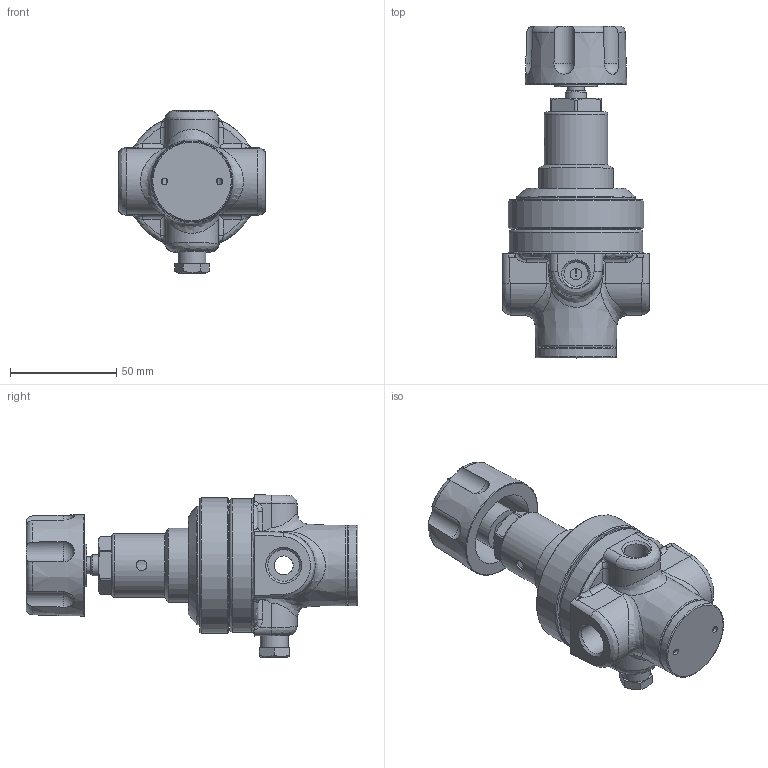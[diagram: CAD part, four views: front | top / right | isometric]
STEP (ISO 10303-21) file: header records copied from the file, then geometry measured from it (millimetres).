
FILE_DESCRIPTION(/* description */ ('R114 R138 R121'),/* implementation_level */ '2;1');
FILE_NAME(/* name */ 'I:\TEC\Lavoro\STEP 114 50 bar.stp',/* time_stamp */ '2020-09-25T11:48:21+02:00',/* author */ ('LucaLimonta'),/* organization */ (''),/* preprocessor_version */ 'ST-DEVELOPER v18.1',/* originating_system */ 'Autodesk Inventor 2021',/* authorisation */ '');
FILE_SCHEMA (('AUTOMOTIVE_DESIGN { 1 0 10303 214 3 1 1 }'));
Length unit declared in the file: millimetre
Products named in the file (20): C81038; P20669; P25029; P34021; P34014; OR 09088; OR 11062; C22021; P22015; P42008; OR 07015; P41064; P24058; P24058_1; P21006; C40001; P40001; P43010; P33012; P26009
Assembly tree (19 placements, depth 3):
  C81038
    P20669
    P25029
    P34021
    P34014
    OR 09088
    OR 11062
    C22021
      P22015
      P42008
      OR 07015
      P41064
    P24058
      P24058_1
    P21006
    C40001
      P40001
      P43010
    P33012
    P26009
Bounding box: 69 x 156.51 x 76.6 mm (x, y, z)
Volume: 120408.7 mm3; surface area: 66087.8 mm2
Topology: 8 solids, 8 shells, 350 faces, 949 edges, 636 vertices
Faces by surface type: plane 142, cylinder 88, cone 55, torus 31, bspline 28, sphere 6
Full cylindrical faces by diameter (mm): 2 x2, 3 x2, 5 x1, 5.5 x2, 8 x1, 8.917 x1, 9 x2, 10 x5, 11 x1, 11.445 x2, 13.157 x1, 13.7 x1, 14.95 x2, 20 x1, 28 x1, 30 x1, 33 x2, 35 x1, 35.5 x1, 38 x1, 50 x3, 54 x3, 54.5 x2, 56 x2, 58 x1, 63 x1, 64 x1
Entity records: 14500 total; most frequent: CARTESIAN_POINT 5066, ORIENTED_EDGE 1906, DIRECTION 1812, EDGE_CURVE 953, AXIS2_PLACEMENT_3D 759, VERTEX_POINT 638, EDGE_LOOP 393, CIRCLE 374
